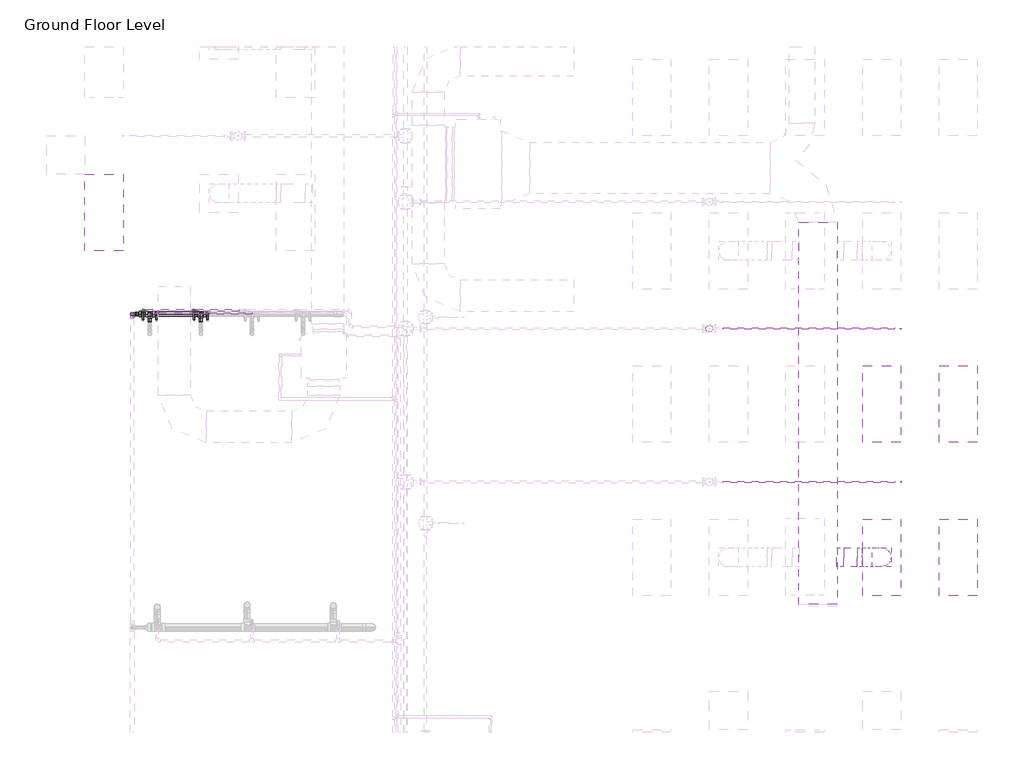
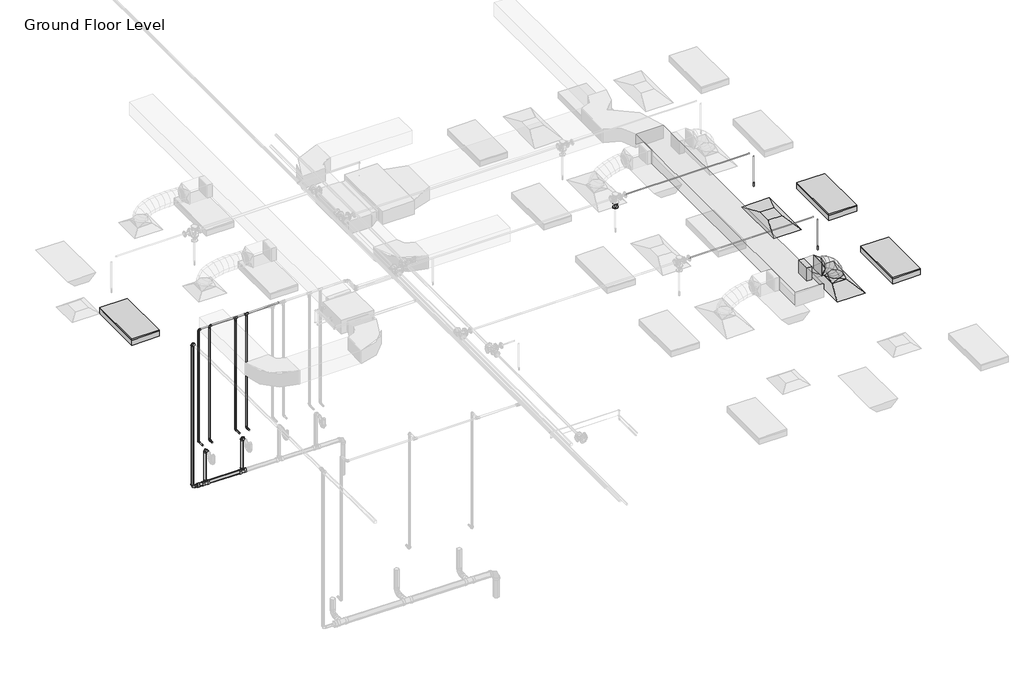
# One storey, part 23 of 74: 24 pipe segments, 16 pipe fittings, 3 duct fittings, 3 duct segments, 3 light fixtures, 2 air terminals, 2 fire suppression terminals.
"""IFC4 building model written with IfcOpenShell, lengths in millimetres."""

from ifc_helpers import new_model, si_unit, point, frame, frame_2d, origin, place, context, project, spatial, polyline, circle_curve, ellipse_curve, trimmed, segment, composite_curve, outline, extrude, transform, mapped, element, save
from ifc_brep_helpers import plane_surface, cylinder_surface, advanced_brep
from components import m_return_diffuser_1200x600_1200_x_600_face_300_x_300_d1983ef6, m_rectangular_takeoff_standard_cb0ccb98, m_rectangular_to_round_transition_angle_45_degree_641efff0, m_sprinkler_dry_pendent_hosted_15_mm_dry_pendent_9bda8e11, m_troffer_light_parabolic_rectangular1_0600x1200mm_4_lamp_86473d4a, m_bend_pvc_sch_40_dwv_standard_1e7bdcc1, m_bend_pvc_sch_40_dwv_standard_b3f66ba9, m_bend_pvc_sch_40_dwv_standard_8255d195, m_reducer_flanged_cs_class_150_standard_ccf252ad, m_reducer_pvc_sch_40_dwv_standard_391ccf0e, m_tee_reducing_sanitary_pvc_sch_40_dwv_standard_21d2848c, standard_b266ab3f, standard_636910a4

model = new_model("IFC4")

# Units and contexts
model_context = context("Model", 3, world=origin())
ifc_project = project(units=[si_unit("LENGTHUNIT", "METRE", prefix="MILLI")], contexts=[model_context])

# Site, building, storey
site = spatial("IfcSite", under=ifc_project)
building = spatial("IfcBuilding", under=site)
storey = spatial("IfcBuildingStorey", under=building, Name="Ground Floor Level", Elevation=900.0)

# Air terminals
placement = place(None, origin())
m_return_diffuser_1200x600_1200_x_600_face_300_x_300_shape = m_return_diffuser_1200x600_1200_x_600_face_300_x_300_d1983ef6(model_context)
element("IfcAirTerminal", 1, ObjectType="M_Return Diffuser 1200x600 : 1200 x 600 Face 300 x 300 Connection", at=placement, inside=storey, context=model_context, shape_type="MappedRepresentation", body=[
    mapped(m_return_diffuser_1200x600_1200_x_600_face_300_x_300_shape, transform((13143.0482736, -25264.7846466, 3650.0), x_axis=(0.0, 1.0, 0.0), y_axis=(-1.0, 0.0, 0.0), z_axis=(0.0, 0.0, 1.0))),
])
element("IfcAirTerminal", 2, ObjectType="M_Supply Diffuser 1200x600 : 1200 x 600 Face 300 x 300 Connection", at=placement, inside=storey, context=model_context, shape_type="MappedRepresentation", body=[
    mapped(m_return_diffuser_1200x600_1200_x_600_face_300_x_300_shape, transform((13143.0482736, -27664.7846466, 3650.0), x_axis=(0.0, 1.0, 0.0), y_axis=(-1.0, 0.0, 0.0), z_axis=(0.0, 0.0, 1.0))),
])

# Duct fittings
m_rectangular_takeoff_standard_shape = m_rectangular_takeoff_standard_cb0ccb98(model_context)
element("IfcDuctFitting", 3, ObjectType="M_Rectangular Takeoff : Standard", at=placement, inside=storey, context=model_context, shape_type="MappedRepresentation", body=[
    mapped(m_rectangular_takeoff_standard_shape, transform((12447.7826463, -27664.7846466, 4150.0), x_axis=(1.0, 0.0, 0.0), y_axis=(0.0, -1.0, 0.0), z_axis=(0.0, 0.0, -1.0))),
])
m_rectangular_to_round_transition_angle_45_degree_shape = m_rectangular_to_round_transition_angle_45_degree_641efff0(model_context)
element("IfcDuctFitting", 4, ObjectType="M_Rectangular to Round Transition - Angle : 45 Degree", at=placement, inside=storey, context=model_context, shape_type="MappedRepresentation", body=[
    mapped(m_rectangular_to_round_transition_angle_45_degree_shape, transform((13143.0482736, -27664.7846466, 3751.6), x_axis=(0.0, 0.0, 1.0), y_axis=(-1.0, 0.0, 0.0), z_axis=(0.0, -1.0, 0.0))),
])
element("IfcDuctFitting", 5, ObjectType="M_Rectangular to Round Transition - Angle : 45 Degree", at=placement, inside=storey, context=model_context, shape_type="MappedRepresentation", body=[
    mapped(m_rectangular_to_round_transition_angle_45_degree_shape, transform((12761.6123697, -27664.7846466, 4150.0), x_axis=(1.0, 0.0, 0.0), y_axis=(0.0, 1.0, 0.0), z_axis=(0.0, 0.0, 1.0))),
])

# Duct segments
element("IfcDuctSegment", 6, ObjectType="Flex - Round", at=placement, inside=storey, context=model_context, shape_type="AdvancedBrep", body=[
    advanced_brep(
    [(13293.0482736, -27664.7846466, 3826.6), (13143.0482736, -27814.7846466, 3826.6), (12993.0482736, -27664.7846466, 3826.6), (13143.0482736, -27514.7846466, 3826.6), (13293.0482736, -27664.7846466, 3876.0801767), (13143.0482736, -27814.7846466, 3855.2056793), (12993.0482736, -27664.7846466, 3834.331182), (13143.0482736, -27514.7846466, 3855.2056793), (13265.1827192, -27664.7846466, 3974.2594203), (13125.4356677, -27814.7846466, 3917.2605124), (12985.6886162, -27664.7846466, 3860.2616044), (13125.4356677, -27514.7846466, 3917.2605124), (13200.6413272, -27664.7846466, 4092.9659573), (13077.9530197, -27814.7846466, 4004.5920764), (12955.2647122, -27664.7846466, 3916.2181955), (13077.9530197, -27514.7846466, 4004.5920764), (13104.756489, -27664.7846466, 4195.7964668), (13008.6330843, -27814.7846466, 4078.9333843), (12912.5096796, -27664.7846466, 3962.0703018), (13008.6330843, -27514.7846466, 4078.9333843), (12990.1100986, -27664.7846466, 4267.0876603), (12925.5086161, -27814.7846466, 4130.6231281), (12860.9071335, -27664.7846466, 3994.1585959), (12925.5086161, -27514.7846466, 4130.6231281), (12893.3774283, -27664.7846466, 4300.0), (12868.5580444, -27814.7846466, 4150.0), (12843.7386605, -27664.7846466, 4000.0), (12868.5580444, -27514.7846466, 4150.0), (12836.6123697, -27664.7846466, 4300.0), (12836.6123697, -27814.7846466, 4150.0), (12836.6123697, -27664.7846466, 4000.0), (12836.6123697, -27514.7846466, 4150.0)],
    [
        (0, 1, circle_curve(frame((13143.0482736, -27664.7846466, 3826.6), z_axis=(0.0, 0.0, -1.0), x_axis=(1.0, 0.0, 0.0)), 150.0)),
        (1, 2, circle_curve(frame((13143.0482736, -27664.7846466, 3826.6), z_axis=(0.0, 0.0, -1.0), x_axis=(1.0, 0.0, 0.0)), 150.0)),
        (2, 3, circle_curve(frame((13143.0482736, -27664.7846466, 3826.6), z_axis=(0.0, 0.0, -1.0), x_axis=(1.0, 0.0, 0.0)), 150.0)),
        (3, 0, circle_curve(frame((13143.0482736, -27664.7846466, 3826.6), z_axis=(0.0, 0.0, -1.0), x_axis=(1.0, 0.0, 0.0)), 150.0)),
        (0, 4),
        (4, 5, ellipse_curve(frame((13143.0482736, -27664.7846466, 3855.2056793), z_axis=(0.13783502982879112, 0.0, -0.990455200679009), x_axis=(-0.990455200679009, 0.0, -0.1378350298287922)), 151.4455171, 150.0)),
        (5, 1),
        (5, 6, ellipse_curve(frame((13143.0482736, -27664.7846466, 3855.2056793), z_axis=(0.13783502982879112, 0.0, -0.990455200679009), x_axis=(-0.990455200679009, 0.0, -0.1378350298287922)), 151.4455171, 150.0)),
        (6, 2),
        (6, 7, ellipse_curve(frame((13143.0482736, -27664.7846466, 3855.2056793), z_axis=(0.13783502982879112, 0.0, -0.990455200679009), x_axis=(-0.990455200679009, 0.0, -0.1378350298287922)), 151.4455171, 150.0)),
        (7, 3),
        (7, 4, ellipse_curve(frame((13143.0482736, -27664.7846466, 3855.2056793), z_axis=(0.13783502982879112, 0.0, -0.990455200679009), x_axis=(-0.990455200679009, 0.0, -0.1378350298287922)), 151.4455171, 150.0)),
        (4, 8),
        (8, 9, ellipse_curve(frame((13125.4356677, -27664.7846466, 3917.2605124), z_axis=(0.37766579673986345, 0.0, -0.9259419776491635), x_axis=(-0.9259419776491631, 0.0, -0.3776657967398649)), 150.9241992, 150.0)),
        (9, 5),
        (9, 10, ellipse_curve(frame((13125.4356677, -27664.7846466, 3917.2605124), z_axis=(0.37766579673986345, 0.0, -0.9259419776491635), x_axis=(-0.9259419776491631, 0.0, -0.3776657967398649)), 150.9241992, 150.0)),
        (10, 6),
        (10, 11, ellipse_curve(frame((13125.4356677, -27664.7846466, 3917.2605124), z_axis=(0.37766579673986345, 0.0, -0.9259419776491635), x_axis=(-0.9259419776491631, 0.0, -0.3776657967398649)), 150.9241992, 150.0)),
        (11, 7),
        (11, 8, ellipse_curve(frame((13125.4356677, -27664.7846466, 3917.2605124), z_axis=(0.37766579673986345, 0.0, -0.9259419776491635), x_axis=(-0.9259419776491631, 0.0, -0.3776657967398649)), 150.9241992, 150.0)),
        (8, 12),
        (12, 13, ellipse_curve(frame((13077.9530197, -27664.7846466, 4004.5920764), z_axis=(0.584471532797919, 0.0, -0.8114142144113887), x_axis=(-0.8114142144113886, 0.0, -0.5844715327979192)), 151.2030542, 150.0)),
        (13, 9),
        (13, 14, ellipse_curve(frame((13077.9530197, -27664.7846466, 4004.5920764), z_axis=(0.584471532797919, 0.0, -0.8114142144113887), x_axis=(-0.8114142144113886, 0.0, -0.5844715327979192)), 151.2030542, 150.0)),
        (14, 10),
        (14, 15, ellipse_curve(frame((13077.9530197, -27664.7846466, 4004.5920764), z_axis=(0.584471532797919, 0.0, -0.8114142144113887), x_axis=(-0.8114142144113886, 0.0, -0.5844715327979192)), 151.2030542, 150.0)),
        (15, 11),
        (15, 12, ellipse_curve(frame((13077.9530197, -27664.7846466, 4004.5920764), z_axis=(0.584471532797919, 0.0, -0.8114142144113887), x_axis=(-0.8114142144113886, 0.0, -0.5844715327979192)), 151.2030542, 150.0)),
        (12, 16),
        (16, 17, ellipse_curve(frame((13008.6330843, -27664.7846466, 4078.9333843), z_axis=(0.7723088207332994, 0.0, -0.6352472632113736), x_axis=(-0.6352472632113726, 0.0, -0.7723088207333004)), 151.3165192, 150.0)),
        (17, 13),
        (17, 18, ellipse_curve(frame((13008.6330843, -27664.7846466, 4078.9333843), z_axis=(0.7723088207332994, 0.0, -0.6352472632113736), x_axis=(-0.6352472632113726, 0.0, -0.7723088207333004)), 151.3165192, 150.0)),
        (18, 14),
        (18, 19, ellipse_curve(frame((13008.6330843, -27664.7846466, 4078.9333843), z_axis=(0.7723088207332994, 0.0, -0.6352472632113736), x_axis=(-0.6352472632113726, 0.0, -0.7723088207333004)), 151.3165192, 150.0)),
        (19, 15),
        (19, 16, ellipse_curve(frame((13008.6330843, -27664.7846466, 4078.9333843), z_axis=(0.7723088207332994, 0.0, -0.6352472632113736), x_axis=(-0.6352472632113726, 0.0, -0.7723088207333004)), 151.3165192, 150.0)),
        (16, 20),
        (20, 21, ellipse_curve(frame((12925.5086161, -27664.7846466, 4130.6231281), z_axis=(0.9038393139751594, 0.0, -0.4278720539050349), x_axis=(-0.42787205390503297, 0.0, -0.9038393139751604)), 150.9831782, 150.0)),
        (21, 17),
        (21, 22, ellipse_curve(frame((12925.5086161, -27664.7846466, 4130.6231281), z_axis=(0.9038393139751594, 0.0, -0.4278720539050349), x_axis=(-0.42787205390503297, 0.0, -0.9038393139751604)), 150.9831782, 150.0)),
        (22, 18),
        (22, 23, ellipse_curve(frame((12925.5086161, -27664.7846466, 4130.6231281), z_axis=(0.9038393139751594, 0.0, -0.4278720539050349), x_axis=(-0.42787205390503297, 0.0, -0.9038393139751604)), 150.9831782, 150.0)),
        (23, 19),
        (23, 20, ellipse_curve(frame((12925.5086161, -27664.7846466, 4130.6231281), z_axis=(0.9038393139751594, 0.0, -0.4278720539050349), x_axis=(-0.42787205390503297, 0.0, -0.9038393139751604)), 150.9831782, 150.0)),
        (20, 24),
        (24, 25, ellipse_curve(frame((12868.5580444, -27664.7846466, 4150.0), z_axis=(0.9865858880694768, 0.0, -0.1632430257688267), x_axis=(-0.16324302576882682, 0.0, -0.9865858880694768)), 152.0394745, 150.0)),
        (25, 21),
        (25, 26, ellipse_curve(frame((12868.5580444, -27664.7846466, 4150.0), z_axis=(0.9865858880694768, 0.0, -0.1632430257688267), x_axis=(-0.16324302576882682, 0.0, -0.9865858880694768)), 152.0394745, 150.0)),
        (26, 22),
        (26, 27, ellipse_curve(frame((12868.5580444, -27664.7846466, 4150.0), z_axis=(0.9865858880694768, 0.0, -0.1632430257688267), x_axis=(-0.16324302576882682, 0.0, -0.9865858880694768)), 152.0394745, 150.0)),
        (27, 23),
        (27, 24, ellipse_curve(frame((12868.5580444, -27664.7846466, 4150.0), z_axis=(0.9865858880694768, 0.0, -0.1632430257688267), x_axis=(-0.16324302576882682, 0.0, -0.9865858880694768)), 152.0394745, 150.0)),
        (24, 28),
        (28, 29, circle_curve(frame((12836.6123697, -27664.7846466, 4150.0), z_axis=(1.0, 0.0, 0.0), x_axis=(0.0, 0.0, 1.0)), 150.0)),
        (29, 25),
        (29, 30, circle_curve(frame((12836.6123697, -27664.7846466, 4150.0), z_axis=(1.0, 0.0, 0.0), x_axis=(0.0, 0.0, 1.0)), 150.0)),
        (30, 26),
        (30, 31, circle_curve(frame((12836.6123697, -27664.7846466, 4150.0), z_axis=(1.0, 0.0, 0.0), x_axis=(0.0, 0.0, 1.0)), 150.0)),
        (31, 27),
        (31, 28, circle_curve(frame((12836.6123697, -27664.7846466, 4150.0), z_axis=(1.0, 0.0, 0.0), x_axis=(0.0, 0.0, 1.0)), 150.0)),
    ],
    [
        plane_surface(frame((13143.0482736, -27814.7846466, 3826.6), z_axis=(0.0, 0.0, -1.0), x_axis=(1.0, 0.0, 0.0))),
        cylinder_surface(frame((13143.0482736, -27664.7846466, 3826.6), z_axis=(0.0, 0.0, -1.0), x_axis=(1.0, 0.0, 0.0)), 150.0),
        cylinder_surface(frame((13143.0482736, -27664.7846466, 3855.2056793), z_axis=(0.27303884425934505, 0.0, -0.9620030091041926), x_axis=(0.9620030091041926, 0.0, 0.27303884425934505)), 150.0),
        cylinder_surface(frame((13125.4356677, -27664.7846466, 3917.2605124), z_axis=(0.4776674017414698, 0.0, -0.8785407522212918), x_axis=(0.8785407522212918, 0.0, 0.4776674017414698)), 150.0),
        cylinder_surface(frame((13077.9530197, -27664.7846466, 4004.5920764), z_axis=(0.6819749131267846, 0.0, -0.7313755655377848), x_axis=(0.7313755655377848, 0.0, 0.6819749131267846)), 150.0),
        cylinder_surface(frame((13008.6330843, -27664.7846466, 4078.9333843), z_axis=(0.8492038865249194, 0.0, -0.5280651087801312), x_axis=(0.5280651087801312, 0.0, 0.8492038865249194)), 150.0),
        cylinder_surface(frame((12925.5086161, -27664.7846466, 4130.6231281), z_axis=(0.9467034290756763, 0.0, -0.32210653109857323), x_axis=(0.32210653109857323, 0.0, 0.9467034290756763)), 150.0),
        cylinder_surface(frame((12868.5580444, -27664.7846466, 4150.0), z_axis=(1.0, 0.0, 0.0), x_axis=(0.0, 0.0, 1.0)), 150.0),
        plane_surface(frame((12836.6123697, -27664.7846466, 4000.0), z_axis=(-1.0, 0.0, 0.0), x_axis=(0.0, -1.0, 0.0))),
    ],
    [
        (0, [[1, 2, 3, 4]]),
        (1, [[-1, 5, 6, 7]]),
        (1, [[-2, -7, 8, 9]]),
        (1, [[-3, -9, 10, 11]]),
        (1, [[-4, -11, 12, -5]]),
        (2, [[-6, 13, 14, 15]]),
        (2, [[-8, -15, 16, 17]]),
        (2, [[-10, -17, 18, 19]]),
        (2, [[-12, -19, 20, -13]]),
        (3, [[-14, 21, 22, 23]]),
        (3, [[-16, -23, 24, 25]]),
        (3, [[-18, -25, 26, 27]]),
        (3, [[-20, -27, 28, -21]]),
        (4, [[-22, 29, 30, 31]]),
        (4, [[-24, -31, 32, 33]]),
        (4, [[-26, -33, 34, 35]]),
        (4, [[-28, -35, 36, -29]]),
        (5, [[-30, 37, 38, 39]]),
        (5, [[-32, -39, 40, 41]]),
        (5, [[-34, -41, 42, 43]]),
        (5, [[-36, -43, 44, -37]]),
        (6, [[-38, 45, 46, 47]]),
        (6, [[-40, -47, 48, 49]]),
        (6, [[-42, -49, 50, 51]]),
        (6, [[-44, -51, 52, -45]]),
        (7, [[-46, 53, 54, 55]]),
        (7, [[-48, -55, 56, 57]]),
        (7, [[-50, -57, 58, 59]]),
        (7, [[-52, -59, 60, -53]]),
        (8, [[-60, -58, -56, -54]]),
    ],
),
])
element("IfcDuctSegment", 7, ObjectType="Radius Elbows / Taps", at=placement, inside=storey, context=model_context, shape_type="SweptSolid", body=[
    extrude(outline(polyline([(12447.7826463, -28403.2846466), (11847.7826463, -28403.2846466), (11847.7826463, -22416.5689179), (12447.7826463, -22416.5689179), (12447.7826463, -28403.2846466)])), frame((0.0, 0.0, 4000.0002153), z_axis=(0.0, 0.0, 1.0), x_axis=(1.0, 0.0, 0.0)), (0.0, 0.0, 1.0), 300.0),
])
element("IfcDuctSegment", 8, ObjectType="Radius Elbows / Taps", at=placement, inside=storey, context=model_context, shape_type="SweptSolid", body=[
    extrude(outline(polyline([(12549.3826463, -27814.7846466), (12549.3826463, -27514.7846466), (12761.6123697, -27514.7846466), (12761.6123697, -27814.7846466), (12549.3826463, -27814.7846466)])), frame((0.0, 0.0, 4000.0), z_axis=(0.0, 0.0, 1.0), x_axis=(1.0, 0.0, 0.0)), (0.0, 0.0, 1.0), 300.0),
])

# Fire suppression terminals
m_sprinkler_dry_pendent_hosted_15_mm_dry_pendent_shape = m_sprinkler_dry_pendent_hosted_15_mm_dry_pendent_9bda8e11(model_context)
element("IfcFireSuppressionTerminal", 9, ObjectType="M_Sprinkler - Dry - Pendent - Hosted : 15 mm Dry Pendent", at=placement, inside=storey, context=model_context, shape_type="MappedRepresentation", body=[
    mapped(m_sprinkler_dry_pendent_hosted_15_mm_dry_pendent_shape, transform((13443.0482736, -24083.6779349, 3650.0), x_axis=(1.0, 0.0, 0.0), y_axis=(0.0, -1.0, 0.0), z_axis=(0.0, 0.0, -1.0))),
])
element("IfcFireSuppressionTerminal", 10, ObjectType="M_Sprinkler - Dry - Pendent - Hosted : 15 mm Dry Pendent", at=placement, inside=storey, context=model_context, shape_type="MappedRepresentation", body=[
    mapped(m_sprinkler_dry_pendent_hosted_15_mm_dry_pendent_shape, transform((13443.0482736, -26484.6295433, 3650.0), x_axis=(1.0, 0.0, 0.0), y_axis=(0.0, -1.0, 0.0), z_axis=(0.0, 0.0, -1.0))),
])

# Light fixtures
m_troffer_light_parabolic_rectangular1_0600x1200mm_4_lamp_shape = m_troffer_light_parabolic_rectangular1_0600x1200mm_4_lamp_86473d4a(model_context)
element("IfcLightFixture", 11, ObjectType="M_Troffer Light - Parabolic Rectangular1 : 0600x1200mm(4 Lamp) - 277V 2", at=placement, inside=storey, context=model_context, shape_type="MappedRepresentation", body=[
    mapped(m_troffer_light_parabolic_rectangular1_0600x1200mm_4_lamp_shape, transform((903.3013074, -22246.081145, 3650.0), x_axis=(0.0, 1.0, 0.0), y_axis=(-1.0, 0.0, 0.0), z_axis=(0.0, 0.0, 1.0))),
])
element("IfcLightFixture", 12, ObjectType="M_Troffer Light - Parabolic Rectangular1 : 0600x1200mm(4 Lamp) - 277V 2", at=placement, inside=storey, context=model_context, shape_type="MappedRepresentation", body=[
    mapped(m_troffer_light_parabolic_rectangular1_0600x1200mm_4_lamp_shape, transform((14283.5823415, -25246.081145, 3650.0), x_axis=(0.0, 1.0, 0.0), y_axis=(-1.0, 0.0, 0.0), z_axis=(0.0, 0.0, 1.0))),
])
element("IfcLightFixture", 13, ObjectType="M_Troffer Light - Parabolic Rectangular1 : 0600x1200mm(4 Lamp) - 277V 2", at=placement, inside=storey, context=model_context, shape_type="MappedRepresentation", body=[
    mapped(m_troffer_light_parabolic_rectangular1_0600x1200mm_4_lamp_shape, transform((14283.5823415, -27646.081145, 3650.0), x_axis=(0.0, 1.0, 0.0), y_axis=(-1.0, 0.0, 0.0), z_axis=(0.0, 0.0, 1.0))),
])

# Pipe fittings
m_bend_pvc_sch_40_dwv_standard_shape = m_bend_pvc_sch_40_dwv_standard_1e7bdcc1(model_context)
element("IfcPipeFitting", 14, ObjectType="M_Bend - PVC - Sch 40 - DWV : Standard", at=placement, inside=storey, context=model_context, shape_type="MappedRepresentation", body=[
    mapped(m_bend_pvc_sch_40_dwv_standard_shape, transform((2479.14976, -23854.2948449, 1508.2594199), x_axis=(0.0, 0.9999500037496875, -0.00999950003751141), y_axis=(0.0, -0.00999950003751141, -0.9999500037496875), z_axis=(-1.0, 0.0, 0.0))),
])
element("IfcPipeFitting", 15, ObjectType="M_Bend - PVC - Sch 40 - DWV : Standard", at=placement, inside=storey, context=model_context, shape_type="MappedRepresentation", body=[
    mapped(m_bend_pvc_sch_40_dwv_standard_shape, transform((1404.8669708, -23854.2948449, 739.8083289), x_axis=(-0.9999500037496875, 0.0, 0.009999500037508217), y_axis=(0.009999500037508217, 0.0, 0.9999500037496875), z_axis=(0.0, 1.0, 0.0))),
])
m_bend_pvc_sch_40_dwv_standard_2_shape = m_bend_pvc_sch_40_dwv_standard_b3f66ba9(model_context)
element("IfcPipeFitting", 16, ObjectType="M_Bend - PVC - Sch 40 - DWV : Standard", at=placement, inside=storey, context=model_context, shape_type="MappedRepresentation", body=[
    mapped(m_bend_pvc_sch_40_dwv_standard_2_shape, transform((1679.14976, -23854.2948449, 1508.2594199), x_axis=(0.0, 0.9999578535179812, -0.009181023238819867), y_axis=(0.0, -0.009181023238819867, -0.9999578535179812), z_axis=(-1.0, 0.0, 0.0))),
])
m_bend_pvc_sch_40_dwv_standard_3_shape = m_bend_pvc_sch_40_dwv_standard_8255d195(model_context)
element("IfcPipeFitting", 17, ObjectType="M_Bend - PVC - Sch 40 - DWV : Standard", at=placement, inside=storey, context=model_context, shape_type="MappedRepresentation", body=[
    mapped(m_bend_pvc_sch_40_dwv_standard_3_shape, transform((1404.8829692, -23854.3136394, 4037.9287036), x_axis=(0.0, 0.0, 1.0), y_axis=(0.0, -1.0, 0.0), z_axis=(1.0, 0.0, 0.0))),
])
m_reducer_flanged_cs_class_150_standard_shape = m_reducer_flanged_cs_class_150_standard_ccf252ad(model_context)
element("IfcPipeFitting", 18, ObjectType="M_Reducer - Flanged - CS - Class 150 : Standard", at=placement, inside=storey, context=model_context, shape_type="MappedRepresentation", body=[
    mapped(m_reducer_flanged_cs_class_150_standard_shape, transform((10443.0482736, -24083.6779349, 4246.7914063), x_axis=(0.0, 0.0, -1.0), y_axis=(-1.0, 0.0, 0.0), z_axis=(0.0, 1.0, 0.0))),
])
m_reducer_pvc_sch_40_dwv_standard_shape = m_reducer_pvc_sch_40_dwv_standard_391ccf0e(model_context)
element("IfcPipeFitting", 19, ObjectType="M_Reducer - PVC - Sch 40 - DWV : Standard", at=placement, inside=storey, context=model_context, shape_type="MappedRepresentation", body=[
    mapped(m_reducer_pvc_sch_40_dwv_standard_shape, transform((1477.4242491, -23854.2948449, 739.0827561), x_axis=(0.9999500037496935, 0.0, -0.00999950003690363), y_axis=(0.0, 1.0, 0.0), z_axis=(0.00999950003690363, 0.0, 0.9999500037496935))),
])
m_tee_reducing_sanitary_pvc_sch_40_dwv_standard_shape = m_tee_reducing_sanitary_pvc_sch_40_dwv_standard_21d2848c(model_context)
element("IfcPipeFitting", 20, ObjectType="M_Tee Reducing Sanitary - PVC - Sch 40 - DWV : Standard", at=placement, inside=storey, context=model_context, shape_type="MappedRepresentation", body=[
    mapped(m_tee_reducing_sanitary_pvc_sch_40_dwv_standard_shape, transform((1679.3782372, -23854.2948449, 737.0632162), x_axis=(-0.9999500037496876, 0.0, 0.009999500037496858), y_axis=(-0.009999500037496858, 0.0, -0.9999500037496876), z_axis=(0.0, -1.0, 0.0))),
])
element("IfcPipeFitting", 21, ObjectType="M_Tee Reducing Sanitary - PVC - Sch 40 - DWV : Standard", at=placement, inside=storey, context=model_context, shape_type="MappedRepresentation", body=[
    mapped(m_tee_reducing_sanitary_pvc_sch_40_dwv_standard_shape, transform((2479.3782372, -23854.2948449, 729.0632162), x_axis=(-0.9999500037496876, 0.0, 0.009999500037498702), y_axis=(-0.009999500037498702, 0.0, -0.9999500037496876), z_axis=(0.0, -1.0, 0.0))),
])
standard_shape = standard_b266ab3f(model_context)
element("IfcPipeFitting", 22, ObjectType="M_Elbow - CPVC - Sch 40 : Standard", at=placement, inside=storey, context=model_context, shape_type="MappedRepresentation", body=[
    mapped(standard_shape, transform((1783.0647206, -23844.7846466, 1690.0), x_axis=(0.0, 0.0, -1.0), y_axis=(0.0, -1.0, 0.0), z_axis=(-1.0, 0.0, 0.0))),
])
element("IfcPipeFitting", 23, ObjectType="M_Elbow - CPVC - Sch 40 : Standard", at=placement, inside=storey, context=model_context, shape_type="MappedRepresentation", body=[
    mapped(standard_shape, transform((2583.0647206, -23844.7846466, 1690.0), x_axis=(0.0, 0.0, -1.0), y_axis=(0.0, -1.0, 0.0), z_axis=(-1.0, 0.0, 0.0))),
])
element("IfcPipeFitting", 24, ObjectType="M_Elbow - CPVC - Sch 40 : Standard", at=placement, inside=storey, context=model_context, shape_type="MappedRepresentation", body=[
    mapped(standard_shape, transform((1783.0647206, -23844.7846466, 4300.0), x_axis=(-1.0, 0.0, 0.0), y_axis=(0.0, 0.0, -1.0), z_axis=(0.0, -1.0, 0.0))),
])
element("IfcPipeFitting", 25, ObjectType="M_Elbow - CPVC - Sch 40 : Standard", at=placement, inside=storey, context=model_context, shape_type="MappedRepresentation", body=[
    mapped(standard_shape, transform((1574.4348794, -23794.921633, 1690.0), x_axis=(0.0, 1.0, 0.0), y_axis=(0.0, 0.0, 1.0), z_axis=(1.0, 0.0, 0.0))),
])
element("IfcPipeFitting", 26, ObjectType="M_Elbow - CPVC - Sch 40 : Standard", at=placement, inside=storey, context=model_context, shape_type="MappedRepresentation", body=[
    mapped(standard_shape, transform((1574.4348794, -23794.921633, 4250.0), x_axis=(0.0, 0.0, 1.0), y_axis=(1.0, 0.0, 0.0), z_axis=(0.0, 1.0, 0.0))),
])
element("IfcPipeFitting", 27, ObjectType="M_Elbow - CPVC - Sch 40 : Standard", at=placement, inside=storey, context=model_context, shape_type="MappedRepresentation", body=[
    mapped(standard_shape, transform((2374.4348794, -23794.921633, 1690.0), x_axis=(0.0, 1.0, 0.0), y_axis=(0.0, 0.0, 1.0), z_axis=(1.0, 0.0, 0.0))),
])
standard_2_shape = standard_636910a4(model_context)
element("IfcPipeFitting", 28, ObjectType="M_Tee - CPVC - Sch 40 : Standard", at=placement, inside=storey, context=model_context, shape_type="MappedRepresentation", body=[
    mapped(standard_2_shape, transform((2583.0647206, -23844.7846466, 4300.0), x_axis=(1.0, 0.0, 0.0), y_axis=(0.0, 0.0, 1.0), z_axis=(0.0, -1.0, 0.0))),
])
element("IfcPipeFitting", 29, ObjectType="M_Tee - CPVC - Sch 40 : Standard", at=placement, inside=storey, context=model_context, shape_type="MappedRepresentation", body=[
    mapped(standard_2_shape, transform((2374.4348794, -23794.921633, 4250.0), x_axis=(-1.0, 0.0, 0.0), y_axis=(0.0, 0.0, 1.0), z_axis=(0.0, 1.0, 0.0))),
])

# Pipe segments
element("IfcPipeSegment", 30, ObjectType="CPVC", at=placement, inside=storey, context=model_context, shape_type="SweptSolid", body=[
    extrude(outline(composite_curve([segment(trimmed(circle_curve(frame_2d((1690.0, 2583.0647206)), 13.335), [point((1690.0, 2596.3997206))], [point((1703.335, 2583.0647206))], False, "CARTESIAN"), True, "CONTINUOUS"), segment(trimmed(circle_curve(frame_2d((1690.0, 2583.0647206)), 13.335), [point((1703.335, 2583.0647206))], [point((1690.0, 2569.7297206))], False, "CARTESIAN"), True, "CONTINUOUS"), segment(trimmed(circle_curve(frame_2d((1690.0, 2583.0647206)), 13.335), [point((1690.0, 2569.7297206))], [point((1676.665, 2583.0647206))], False, "CARTESIAN"), True, "CONTINUOUS"), segment(trimmed(circle_curve(frame_2d((1690.0, 2583.0647206)), 13.335), [point((1676.665, 2583.0647206))], [point((1690.0, 2596.3997206))], False, "CARTESIAN"), True, "CONTINUOUS")], self_intersect=False)), frame((0.0, -23944.7846466, 0.0), z_axis=(0.0, 1.0, 0.0), x_axis=(0.0, 0.0, 1.0)), (0.0, 0.0, 1.0), 64.67495),
])
element("IfcPipeSegment", 31, ObjectType="CPVC", at=placement, inside=storey, context=model_context, shape_type="SweptSolid", body=[
    extrude(outline(composite_curve([segment(trimmed(circle_curve(frame_2d((1690.0, 1783.0647206)), 13.335), [point((1690.0, 1796.3997206))], [point((1703.335, 1783.0647206))], False, "CARTESIAN"), True, "CONTINUOUS"), segment(trimmed(circle_curve(frame_2d((1690.0, 1783.0647206)), 13.335), [point((1703.335, 1783.0647206))], [point((1690.0, 1769.7297206))], False, "CARTESIAN"), True, "CONTINUOUS"), segment(trimmed(circle_curve(frame_2d((1690.0, 1783.0647206)), 13.335), [point((1690.0, 1769.7297206))], [point((1676.665, 1783.0647206))], False, "CARTESIAN"), True, "CONTINUOUS"), segment(trimmed(circle_curve(frame_2d((1690.0, 1783.0647206)), 13.335), [point((1676.665, 1783.0647206))], [point((1690.0, 1796.3997206))], False, "CARTESIAN"), True, "CONTINUOUS")], self_intersect=False)), frame((0.0, -23944.7846466, 0.0), z_axis=(0.0, 1.0, 0.0), x_axis=(0.0, 0.0, 1.0)), (0.0, 0.0, 1.0), 64.67495),
])
element("IfcPipeSegment", 32, ObjectType="CPVC", at=placement, inside=storey, context=model_context, shape_type="SweptSolid", body=[
    extrude(outline(composite_curve([segment(trimmed(circle_curve(frame_2d((1783.0647206, -23844.7846466)), 13.335), [point((1796.3997206, -23844.7846466))], [point((1783.0647206, -23858.1196466))], False, "CARTESIAN"), True, "CONTINUOUS"), segment(trimmed(circle_curve(frame_2d((1783.0647206, -23844.7846466)), 13.335), [point((1783.0647206, -23858.1196466))], [point((1769.7297206, -23844.7846466))], False, "CARTESIAN"), True, "CONTINUOUS"), segment(trimmed(circle_curve(frame_2d((1783.0647206, -23844.7846466)), 13.335), [point((1769.7297206, -23844.7846466))], [point((1783.0647206, -23831.4496466))], False, "CARTESIAN"), True, "CONTINUOUS"), segment(trimmed(circle_curve(frame_2d((1783.0647206, -23844.7846466)), 13.335), [point((1783.0647206, -23831.4496466))], [point((1796.3997206, -23844.7846466))], False, "CARTESIAN"), True, "CONTINUOUS")], self_intersect=False)), frame((0.0, 0.0, 1725.32505), z_axis=(0.0, 0.0, 1.0), x_axis=(1.0, 0.0, 0.0)), (0.0, 0.0, 1.0), 2539.3499),
])
element("IfcPipeSegment", 33, ObjectType="CPVC", at=placement, inside=storey, context=model_context, shape_type="SweptSolid", body=[
    extrude(outline(composite_curve([segment(trimmed(circle_curve(frame_2d((-23844.7846466, 4300.0)), 13.335), [point((-23831.4496466, 4300.0))], [point((-23844.7846466, 4286.665))], False, "CARTESIAN"), True, "CONTINUOUS"), segment(trimmed(circle_curve(frame_2d((-23844.7846466, 4300.0)), 13.335), [point((-23844.7846466, 4286.665))], [point((-23858.1196466, 4300.0))], False, "CARTESIAN"), True, "CONTINUOUS"), segment(trimmed(circle_curve(frame_2d((-23844.7846466, 4300.0)), 13.335), [point((-23858.1196466, 4300.0))], [point((-23844.7846466, 4313.335))], False, "CARTESIAN"), True, "CONTINUOUS"), segment(trimmed(circle_curve(frame_2d((-23844.7846466, 4300.0)), 13.335), [point((-23844.7846466, 4313.335))], [point((-23831.4496466, 4300.0))], False, "CARTESIAN"), True, "CONTINUOUS")], self_intersect=False)), frame((1818.3897706, 0.0, 0.0), z_axis=(1.0, 0.0, 0.0), x_axis=(0.0, 1.0, 0.0)), (0.0, 0.0, 1.0), 732.13755),
])
element("IfcPipeSegment", 34, ObjectType="CPVC", at=placement, inside=storey, context=model_context, shape_type="SweptSolid", body=[
    extrude(outline(composite_curve([segment(trimmed(circle_curve(frame_2d((2583.0647206, -23844.7846466)), 13.335), [point((2596.3997206, -23844.7846466))], [point((2583.0647206, -23858.1196466))], False, "CARTESIAN"), True, "CONTINUOUS"), segment(trimmed(circle_curve(frame_2d((2583.0647206, -23844.7846466)), 13.335), [point((2583.0647206, -23858.1196466))], [point((2569.7297206, -23844.7846466))], False, "CARTESIAN"), True, "CONTINUOUS"), segment(trimmed(circle_curve(frame_2d((2583.0647206, -23844.7846466)), 13.335), [point((2569.7297206, -23844.7846466))], [point((2583.0647206, -23831.4496466))], False, "CARTESIAN"), True, "CONTINUOUS"), segment(trimmed(circle_curve(frame_2d((2583.0647206, -23844.7846466)), 13.335), [point((2583.0647206, -23831.4496466))], [point((2596.3997206, -23844.7846466))], False, "CARTESIAN"), True, "CONTINUOUS")], self_intersect=False)), frame((0.0, 0.0, 1725.32505), z_axis=(0.0, 0.0, 1.0), x_axis=(1.0, 0.0, 0.0)), (0.0, 0.0, 1.0), 2542.13755),
])
element("IfcPipeSegment", 35, ObjectType="CPVC", at=placement, inside=storey, context=model_context, shape_type="SweptSolid", body=[
    extrude(outline(composite_curve([segment(trimmed(circle_curve(frame_2d((-23844.7846466, 4300.0)), 13.335), [point((-23831.4496466, 4300.0))], [point((-23844.7846466, 4286.665))], False, "CARTESIAN"), True, "CONTINUOUS"), segment(trimmed(circle_curve(frame_2d((-23844.7846466, 4300.0)), 13.335), [point((-23844.7846466, 4286.665))], [point((-23858.1196466, 4300.0))], False, "CARTESIAN"), True, "CONTINUOUS"), segment(trimmed(circle_curve(frame_2d((-23844.7846466, 4300.0)), 13.335), [point((-23858.1196466, 4300.0))], [point((-23844.7846466, 4313.335))], False, "CARTESIAN"), True, "CONTINUOUS"), segment(trimmed(circle_curve(frame_2d((-23844.7846466, 4300.0)), 13.335), [point((-23844.7846466, 4313.335))], [point((-23831.4496466, 4300.0))], False, "CARTESIAN"), True, "CONTINUOUS")], self_intersect=False)), frame((2615.6021206, 0.0, 0.0), z_axis=(1.0, 0.0, 0.0), x_axis=(0.0, 1.0, 0.0)), (0.0, 0.0, 1.0), 670.6124),
])
element("IfcPipeSegment", 36, ObjectType="CPVC", at=placement, inside=storey, context=model_context, shape_type="SweptSolid", body=[
    extrude(outline(composite_curve([segment(trimmed(circle_curve(frame_2d((1690.0, 1574.4348794)), 13.335), [point((1690.0, 1587.7698794))], [point((1703.335, 1574.4348794))], False, "CARTESIAN"), True, "CONTINUOUS"), segment(trimmed(circle_curve(frame_2d((1690.0, 1574.4348794)), 13.335), [point((1703.335, 1574.4348794))], [point((1690.0, 1561.0998794))], False, "CARTESIAN"), True, "CONTINUOUS"), segment(trimmed(circle_curve(frame_2d((1690.0, 1574.4348794)), 13.335), [point((1690.0, 1561.0998794))], [point((1676.665, 1574.4348794))], False, "CARTESIAN"), True, "CONTINUOUS"), segment(trimmed(circle_curve(frame_2d((1690.0, 1574.4348794)), 13.335), [point((1676.665, 1574.4348794))], [point((1690.0, 1587.7698794))], False, "CARTESIAN"), True, "CONTINUOUS")], self_intersect=False)), frame((0.0, -23944.7846466, 0.0), z_axis=(0.0, 1.0, 0.0), x_axis=(0.0, 0.0, 1.0)), (0.0, 0.0, 1.0), 114.5379636),
])
element("IfcPipeSegment", 37, ObjectType="CPVC", at=placement, inside=storey, context=model_context, shape_type="SweptSolid", body=[
    extrude(outline(composite_curve([segment(trimmed(circle_curve(frame_2d((1574.4348794, -23794.921633)), 13.335), [point((1561.0998794, -23794.921633))], [point((1574.4348794, -23781.586633))], False, "CARTESIAN"), True, "CONTINUOUS"), segment(trimmed(circle_curve(frame_2d((1574.4348794, -23794.921633)), 13.335), [point((1574.4348794, -23781.586633))], [point((1587.7698794, -23794.921633))], False, "CARTESIAN"), True, "CONTINUOUS"), segment(trimmed(circle_curve(frame_2d((1574.4348794, -23794.921633)), 13.335), [point((1587.7698794, -23794.921633))], [point((1574.4348794, -23808.256633))], False, "CARTESIAN"), True, "CONTINUOUS"), segment(trimmed(circle_curve(frame_2d((1574.4348794, -23794.921633)), 13.335), [point((1574.4348794, -23808.256633))], [point((1561.0998794, -23794.921633))], False, "CARTESIAN"), True, "CONTINUOUS")], self_intersect=False)), frame((0.0, 0.0, 1725.32505), z_axis=(0.0, 0.0, 1.0), x_axis=(1.0, 0.0, 0.0)), (0.0, 0.0, 1.0), 2489.3499),
])
element("IfcPipeSegment", 38, ObjectType="CPVC", at=placement, inside=storey, context=model_context, shape_type="SweptSolid", body=[
    extrude(outline(composite_curve([segment(trimmed(circle_curve(frame_2d((1690.0, 2374.4348794)), 13.335), [point((1690.0, 2387.7698794))], [point((1703.335, 2374.4348794))], False, "CARTESIAN"), True, "CONTINUOUS"), segment(trimmed(circle_curve(frame_2d((1690.0, 2374.4348794)), 13.335), [point((1703.335, 2374.4348794))], [point((1690.0, 2361.0998794))], False, "CARTESIAN"), True, "CONTINUOUS"), segment(trimmed(circle_curve(frame_2d((1690.0, 2374.4348794)), 13.335), [point((1690.0, 2361.0998794))], [point((1676.665, 2374.4348794))], False, "CARTESIAN"), True, "CONTINUOUS"), segment(trimmed(circle_curve(frame_2d((1690.0, 2374.4348794)), 13.335), [point((1676.665, 2374.4348794))], [point((1690.0, 2387.7698794))], False, "CARTESIAN"), True, "CONTINUOUS")], self_intersect=False)), frame((0.0, -23944.7846466, 0.0), z_axis=(0.0, 1.0, 0.0), x_axis=(0.0, 0.0, 1.0)), (0.0, 0.0, 1.0), 114.5379636),
])
element("IfcPipeSegment", 39, ObjectType="CPVC", at=placement, inside=storey, context=model_context, shape_type="SweptSolid", body=[
    extrude(outline(composite_curve([segment(trimmed(circle_curve(frame_2d((2374.4348794, -23794.921633)), 13.335), [point((2361.0998794, -23794.921633))], [point((2374.4348794, -23781.586633))], False, "CARTESIAN"), True, "CONTINUOUS"), segment(trimmed(circle_curve(frame_2d((2374.4348794, -23794.921633)), 13.335), [point((2374.4348794, -23781.586633))], [point((2387.7698794, -23794.921633))], False, "CARTESIAN"), True, "CONTINUOUS"), segment(trimmed(circle_curve(frame_2d((2374.4348794, -23794.921633)), 13.335), [point((2387.7698794, -23794.921633))], [point((2374.4348794, -23808.256633))], False, "CARTESIAN"), True, "CONTINUOUS"), segment(trimmed(circle_curve(frame_2d((2374.4348794, -23794.921633)), 13.335), [point((2374.4348794, -23808.256633))], [point((2361.0998794, -23794.921633))], False, "CARTESIAN"), True, "CONTINUOUS")], self_intersect=False)), frame((0.0, 0.0, 1725.32505), z_axis=(0.0, 0.0, 1.0), x_axis=(1.0, 0.0, 0.0)), (0.0, 0.0, 1.0), 2492.13755),
])
element("IfcPipeSegment", 40, ObjectType="CPVC", at=placement, inside=storey, context=model_context, shape_type="SweptSolid", body=[
    extrude(outline(composite_curve([segment(trimmed(circle_curve(frame_2d((-23794.921633, 4250.0)), 13.335), [point((-23808.256633, 4250.0))], [point((-23794.921633, 4263.335))], False, "CARTESIAN"), True, "CONTINUOUS"), segment(trimmed(circle_curve(frame_2d((-23794.921633, 4250.0)), 13.335), [point((-23794.921633, 4263.335))], [point((-23781.586633, 4250.0))], False, "CARTESIAN"), True, "CONTINUOUS"), segment(trimmed(circle_curve(frame_2d((-23794.921633, 4250.0)), 13.335), [point((-23781.586633, 4250.0))], [point((-23794.921633, 4236.665))], False, "CARTESIAN"), True, "CONTINUOUS"), segment(trimmed(circle_curve(frame_2d((-23794.921633, 4250.0)), 13.335), [point((-23794.921633, 4236.665))], [point((-23808.256633, 4250.0))], False, "CARTESIAN"), True, "CONTINUOUS")], self_intersect=False)), frame((1609.7599294, 0.0, 0.0), z_axis=(1.0, 0.0, 0.0), x_axis=(0.0, 1.0, 0.0)), (0.0, 0.0, 1.0), 732.13755),
])
element("IfcPipeSegment", 41, ObjectType="CPVC", at=placement, inside=storey, context=model_context, shape_type="SweptSolid", body=[
    extrude(outline(composite_curve([segment(trimmed(circle_curve(frame_2d((-23794.921633, 4250.0)), 13.335), [point((-23808.256633, 4250.0))], [point((-23794.921633, 4263.335))], False, "CARTESIAN"), True, "CONTINUOUS"), segment(trimmed(circle_curve(frame_2d((-23794.921633, 4250.0)), 13.335), [point((-23794.921633, 4263.335))], [point((-23781.586633, 4250.0))], False, "CARTESIAN"), True, "CONTINUOUS"), segment(trimmed(circle_curve(frame_2d((-23794.921633, 4250.0)), 13.335), [point((-23781.586633, 4250.0))], [point((-23794.921633, 4236.665))], False, "CARTESIAN"), True, "CONTINUOUS"), segment(trimmed(circle_curve(frame_2d((-23794.921633, 4250.0)), 13.335), [point((-23794.921633, 4236.665))], [point((-23808.256633, 4250.0))], False, "CARTESIAN"), True, "CONTINUOUS")], self_intersect=False)), frame((2406.9722794, 0.0, 0.0), z_axis=(1.0, 0.0, 0.0), x_axis=(0.0, 1.0, 0.0)), (0.0, 0.0, 1.0), 670.6124),
])
element("IfcPipeSegment", 42, ObjectType="PVC - DWV", at=placement, inside=storey, context=model_context, shape_type="SweptSolid", body=[
    extrude(outline(composite_curve([segment(trimmed(circle_curve(frame_2d((0.0, -24.13)), 24.13), [point((24.13, -24.13))], [point((0.0, -48.26))], False, "CARTESIAN"), True, "CONTINUOUS"), segment(trimmed(circle_curve(frame_2d((0.0, -24.13)), 24.13), [point((0.0, -48.26))], [point((-24.13, -24.13))], False, "CARTESIAN"), True, "CONTINUOUS"), segment(trimmed(circle_curve(frame_2d((0.0, -24.13)), 24.13), [point((-24.13, -24.13))], [point((0.0, 0.0))], False, "CARTESIAN"), True, "CONTINUOUS"), segment(trimmed(circle_curve(frame_2d((0.0, -24.13)), 24.13), [point((0.0, 0.0))], [point((24.13, -24.13))], False, "CARTESIAN"), True, "CONTINUOUS")], self_intersect=False)), frame((1679.14976, -23915.9507481, 1532.956517), z_axis=(0.0, -0.9999500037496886, 0.0099995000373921), x_axis=(1.0, 0.0, 0.0)), (0.0, 0.0, 1.0), 60.2666363),
])
element("IfcPipeSegment", 43, ObjectType="PVC - DWV", at=placement, inside=storey, context=model_context, shape_type="SweptSolid", body=[
    extrude(outline(composite_curve([segment(trimmed(circle_curve(frame_2d((0.0, 24.13)), 24.13), [point((-24.13, 24.13))], [point((0.0, 48.26))], False, "CARTESIAN"), True, "CONTINUOUS"), segment(trimmed(circle_curve(frame_2d((0.0, 24.13)), 24.13), [point((0.0, 48.26))], [point((24.13, 24.13))], False, "CARTESIAN"), True, "CONTINUOUS"), segment(trimmed(circle_curve(frame_2d((0.0, 24.13)), 24.13), [point((24.13, 24.13))], [point((0.0, 0.0))], False, "CARTESIAN"), True, "CONTINUOUS"), segment(trimmed(circle_curve(frame_2d((0.0, 24.13)), 24.13), [point((0.0, 0.0))], [point((-24.13, 24.13))], False, "CARTESIAN"), True, "CONTINUOUS")], self_intersect=False)), frame((1679.3782372, -23878.4248449, 817.9106725), z_axis=(-4.5345211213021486e-05, 0.0, 0.999999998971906), x_axis=(0.999999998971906, 0.0, 4.5345211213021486e-05)), (0.0, 0.0, 1.0), 628.448948),
])
element("IfcPipeSegment", 44, ObjectType="PVC - DWV", at=placement, inside=storey, context=model_context, shape_type="SweptSolid", body=[
    extrude(outline(composite_curve([segment(trimmed(circle_curve(frame_2d((0.0, -24.13)), 24.13), [point((24.13, -24.13))], [point((0.0, -48.26))], False, "CARTESIAN"), True, "CONTINUOUS"), segment(trimmed(circle_curve(frame_2d((0.0, -24.13)), 24.13), [point((0.0, -48.26))], [point((-24.13, -24.13))], False, "CARTESIAN"), True, "CONTINUOUS"), segment(trimmed(circle_curve(frame_2d((0.0, -24.13)), 24.13), [point((-24.13, -24.13))], [point((0.0, 0.0))], False, "CARTESIAN"), True, "CONTINUOUS"), segment(trimmed(circle_curve(frame_2d((0.0, -24.13)), 24.13), [point((0.0, 0.0))], [point((24.13, -24.13))], False, "CARTESIAN"), True, "CONTINUOUS")], self_intersect=False)), frame((2479.14976, -23915.9502622, 1533.0071805), z_axis=(0.0, -0.9999500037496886, 0.009999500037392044), x_axis=(1.0, 0.0, 0.0)), (0.0, 0.0, 1.0), 60.2666156),
])
element("IfcPipeSegment", 45, ObjectType="PVC - DWV", at=placement, inside=storey, context=model_context, shape_type="SweptSolid", body=[
    extrude(outline(composite_curve([segment(trimmed(circle_curve(frame_2d((0.0, 24.13)), 24.13), [point((-24.13, 24.13))], [point((0.0, 48.26))], False, "CARTESIAN"), True, "CONTINUOUS"), segment(trimmed(circle_curve(frame_2d((0.0, 24.13)), 24.13), [point((0.0, 48.26))], [point((24.13, 24.13))], False, "CARTESIAN"), True, "CONTINUOUS"), segment(trimmed(circle_curve(frame_2d((0.0, 24.13)), 24.13), [point((24.13, 24.13))], [point((0.0, 0.0))], False, "CARTESIAN"), True, "CONTINUOUS"), segment(trimmed(circle_curve(frame_2d((0.0, 24.13)), 24.13), [point((0.0, 0.0))], [point((-24.13, 24.13))], False, "CARTESIAN"), True, "CONTINUOUS")], self_intersect=False)), frame((2479.3782372, -23878.4248449, 809.9106725), z_axis=(-4.477523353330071e-05, 0.0, 0.9999999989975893), x_axis=(0.9999999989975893, 0.0, 4.477523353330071e-05)), (0.0, 0.0, 1.0), 636.448948),
])
element("IfcPipeSegment", 46, ObjectType="PVC - DWV", at=placement, inside=storey, context=model_context, shape_type="SweptSolid", body=[
    extrude(outline(composite_curve([segment(trimmed(circle_curve(frame_2d((0.0, -36.5125)), 36.5125), [point((0.0, -73.025))], [point((-36.5125, -36.5125))], False, "CARTESIAN"), True, "CONTINUOUS"), segment(trimmed(circle_curve(frame_2d((0.0, -36.5125)), 36.5125), [point((-36.5125, -36.5125))], [point((0.0, 0.0))], False, "CARTESIAN"), True, "CONTINUOUS"), segment(trimmed(circle_curve(frame_2d((0.0, -36.5125)), 36.5125), [point((0.0, 0.0))], [point((36.5125, -36.5125))], False, "CARTESIAN"), True, "CONTINUOUS"), segment(trimmed(circle_curve(frame_2d((0.0, -36.5125)), 36.5125), [point((36.5125, -36.5125))], [point((0.0, -73.025))], False, "CARTESIAN"), True, "CONTINUOUS")], self_intersect=False)), frame((2419.8954679, -23817.7823449, 729.6580439), z_axis=(-0.9999500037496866, 0.0, 0.009999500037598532), x_axis=(0.009999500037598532, 0.0, 0.9999500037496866)), (0.0, 0.0, 1.0), 661.4911369),
])
element("IfcPipeSegment", 47, ObjectType="PVC - DWV", at=placement, inside=storey, context=model_context, shape_type="SweptSolid", body=[
    extrude(outline(composite_curve([segment(trimmed(circle_curve(frame_2d((0.0, 36.5125)), 36.5125), [point((0.0, 73.025))], [point((36.5125, 36.5125))], False, "CARTESIAN"), True, "CONTINUOUS"), segment(trimmed(circle_curve(frame_2d((0.0, 36.5125)), 36.5125), [point((36.5125, 36.5125))], [point((0.0, 0.0))], False, "CARTESIAN"), True, "CONTINUOUS"), segment(trimmed(circle_curve(frame_2d((0.0, 36.5125)), 36.5125), [point((0.0, 0.0))], [point((-36.5125, 36.5125))], False, "CARTESIAN"), True, "CONTINUOUS"), segment(trimmed(circle_curve(frame_2d((0.0, 36.5125)), 36.5125), [point((-36.5125, 36.5125))], [point((0.0, 73.025))], False, "CARTESIAN"), True, "CONTINUOUS")], self_intersect=False)), frame((1619.8954679, -23890.8073449, 737.6580439), z_axis=(-0.9999500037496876, 0.0, 0.00999950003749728), x_axis=(0.00999950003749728, 0.0, 0.9999500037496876)), (0.0, 0.0, 1.0), 75.0322485),
])
element("IfcPipeSegment", 48, ObjectType="PVC - DWV", at=placement, inside=storey, context=model_context, shape_type="SweptSolid", body=[
    extrude(outline(composite_curve([segment(trimmed(circle_curve(frame_2d((0.0, 24.13)), 24.13), [point((0.0, 48.26))], [point((24.13, 24.13))], False, "CARTESIAN"), True, "CONTINUOUS"), segment(trimmed(circle_curve(frame_2d((0.0, 24.13)), 24.13), [point((24.13, 24.13))], [point((0.0, 0.0))], False, "CARTESIAN"), True, "CONTINUOUS"), segment(trimmed(circle_curve(frame_2d((0.0, 24.13)), 24.13), [point((0.0, 0.0))], [point((-24.13, 24.13))], False, "CARTESIAN"), True, "CONTINUOUS"), segment(trimmed(circle_curve(frame_2d((0.0, 24.13)), 24.13), [point((-24.13, 24.13))], [point((0.0, 48.26))], False, "CARTESIAN"), True, "CONTINUOUS")], self_intersect=False)), frame((1477.4242491, -23878.4248449, 739.0827561), z_axis=(-0.9999500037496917, 0.0, 0.009999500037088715), x_axis=(0.009999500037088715, 0.0, 0.9999500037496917)), (0.0, 0.0, 1.0), 10.6611061),
])
element("IfcPipeSegment", 49, ObjectType="PVC - DWV", at=placement, inside=storey, context=model_context, shape_type="SweptSolid", body=[
    extrude(outline(composite_curve([segment(trimmed(circle_curve(frame_2d((0.0, 24.13)), 24.13), [point((-24.13, 24.13))], [point((0.0, 48.26))], False, "CARTESIAN"), True, "CONTINUOUS"), segment(trimmed(circle_curve(frame_2d((0.0, 24.13)), 24.13), [point((0.0, 48.26))], [point((24.13, 24.13))], False, "CARTESIAN"), True, "CONTINUOUS"), segment(trimmed(circle_curve(frame_2d((0.0, 24.13)), 24.13), [point((24.13, 24.13))], [point((0.0, 0.0))], False, "CARTESIAN"), True, "CONTINUOUS"), segment(trimmed(circle_curve(frame_2d((0.0, 24.13)), 24.13), [point((0.0, 0.0))], [point((-24.13, 24.13))], False, "CARTESIAN"), True, "CONTINUOUS")], self_intersect=False)), frame((1404.8669708, -23878.4248449, 801.707986), z_axis=(5.03994386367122e-06, -5.920779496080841e-06, 0.9999999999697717), x_axis=(0.9999999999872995, 2.984279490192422e-11, -5.039943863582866e-06)), (0.0, 0.0, 1.0), 3174.3207748),
])
element("IfcPipeSegment", 50, ObjectType="Steel flanged", at=placement, inside=storey, context=model_context, shape_type="SweptSolid", body=[
    extrude(outline(composite_curve([segment(trimmed(circle_curve(frame_2d((13443.0482736, -26484.6295433)), 10.668), [point((13432.3802736, -26484.6295433))], [point((13443.0482736, -26473.9615433))], False, "CARTESIAN"), True, "CONTINUOUS"), segment(trimmed(circle_curve(frame_2d((13443.0482736, -26484.6295433)), 10.668), [point((13443.0482736, -26473.9615433))], [point((13453.7162736, -26484.6295433))], False, "CARTESIAN"), True, "CONTINUOUS"), segment(trimmed(circle_curve(frame_2d((13443.0482736, -26484.6295433)), 10.668), [point((13453.7162736, -26484.6295433))], [point((13443.0482736, -26495.2975433))], False, "CARTESIAN"), True, "CONTINUOUS"), segment(trimmed(circle_curve(frame_2d((13443.0482736, -26484.6295433)), 10.668), [point((13443.0482736, -26495.2975433))], [point((13432.3802736, -26484.6295433))], False, "CARTESIAN"), True, "CONTINUOUS")], self_intersect=False)), frame((0.0, 0.0, 3650.0), z_axis=(0.0, 0.0, 1.0), x_axis=(1.0, 0.0, 0.0)), (0.0, 0.0, 1.0), 604.4914062),
])
element("IfcPipeSegment", 51, ObjectType="Steel flanged", at=placement, inside=storey, context=model_context, shape_type="SweptSolid", body=[
    extrude(outline(composite_curve([segment(trimmed(circle_curve(frame_2d((13443.0482736, -24083.6779349)), 10.668), [point((13432.3802736, -24083.6779349))], [point((13443.0482736, -24073.0099349))], False, "CARTESIAN"), True, "CONTINUOUS"), segment(trimmed(circle_curve(frame_2d((13443.0482736, -24083.6779349)), 10.668), [point((13443.0482736, -24073.0099349))], [point((13453.7162736, -24083.6779349))], False, "CARTESIAN"), True, "CONTINUOUS"), segment(trimmed(circle_curve(frame_2d((13443.0482736, -24083.6779349)), 10.668), [point((13453.7162736, -24083.6779349))], [point((13443.0482736, -24094.3459349))], False, "CARTESIAN"), True, "CONTINUOUS"), segment(trimmed(circle_curve(frame_2d((13443.0482736, -24083.6779349)), 10.668), [point((13443.0482736, -24094.3459349))], [point((13432.3802736, -24083.6779349))], False, "CARTESIAN"), True, "CONTINUOUS")], self_intersect=False)), frame((0.0, 0.0, 3650.0), z_axis=(0.0, 0.0, 1.0), x_axis=(1.0, 0.0, 0.0)), (0.0, 0.0, 1.0), 604.4914062),
])
element("IfcPipeSegment", 52, ObjectType="Steel flanged", at=placement, inside=storey, context=model_context, shape_type="SweptSolid", body=[
    extrude(outline(composite_curve([segment(trimmed(circle_curve(frame_2d((-26484.6295433, 4347.5)), 10.668), [point((-26473.9615433, 4347.5))], [point((-26484.6295433, 4336.832))], False, "CARTESIAN"), True, "CONTINUOUS"), segment(trimmed(circle_curve(frame_2d((-26484.6295433, 4347.5)), 10.668), [point((-26484.6295433, 4336.832))], [point((-26495.2975433, 4347.5))], False, "CARTESIAN"), True, "CONTINUOUS"), segment(trimmed(circle_curve(frame_2d((-26484.6295433, 4347.5)), 10.668), [point((-26495.2975433, 4347.5))], [point((-26484.6295433, 4358.168))], False, "CARTESIAN"), True, "CONTINUOUS"), segment(trimmed(circle_curve(frame_2d((-26484.6295433, 4347.5)), 10.668), [point((-26484.6295433, 4358.168))], [point((-26473.9615433, 4347.5))], False, "CARTESIAN"), True, "CONTINUOUS")], self_intersect=False)), frame((10657.7568674, 0.0, 0.0), z_axis=(1.0, 0.0, 0.0), x_axis=(0.0, 1.0, 0.0)), (0.0, 0.0, 1.0), 2692.2828125),
])
element("IfcPipeSegment", 53, ObjectType="Steel flanged", at=placement, inside=storey, context=model_context, shape_type="SweptSolid", body=[
    extrude(outline(composite_curve([segment(trimmed(circle_curve(frame_2d((-24083.6779349, 4347.5)), 10.668), [point((-24073.0099349, 4347.5))], [point((-24083.6779349, 4336.832))], False, "CARTESIAN"), True, "CONTINUOUS"), segment(trimmed(circle_curve(frame_2d((-24083.6779349, 4347.5)), 10.668), [point((-24083.6779349, 4336.832))], [point((-24094.3459349, 4347.5))], False, "CARTESIAN"), True, "CONTINUOUS"), segment(trimmed(circle_curve(frame_2d((-24083.6779349, 4347.5)), 10.668), [point((-24094.3459349, 4347.5))], [point((-24083.6779349, 4358.168))], False, "CARTESIAN"), True, "CONTINUOUS"), segment(trimmed(circle_curve(frame_2d((-24083.6779349, 4347.5)), 10.668), [point((-24083.6779349, 4358.168))], [point((-24073.0099349, 4347.5))], False, "CARTESIAN"), True, "CONTINUOUS")], self_intersect=False)), frame((10657.7568674, 0.0, 0.0), z_axis=(1.0, 0.0, 0.0), x_axis=(0.0, 1.0, 0.0)), (0.0, 0.0, 1.0), 2692.2828125),
])

save(model, "model.ifc")
